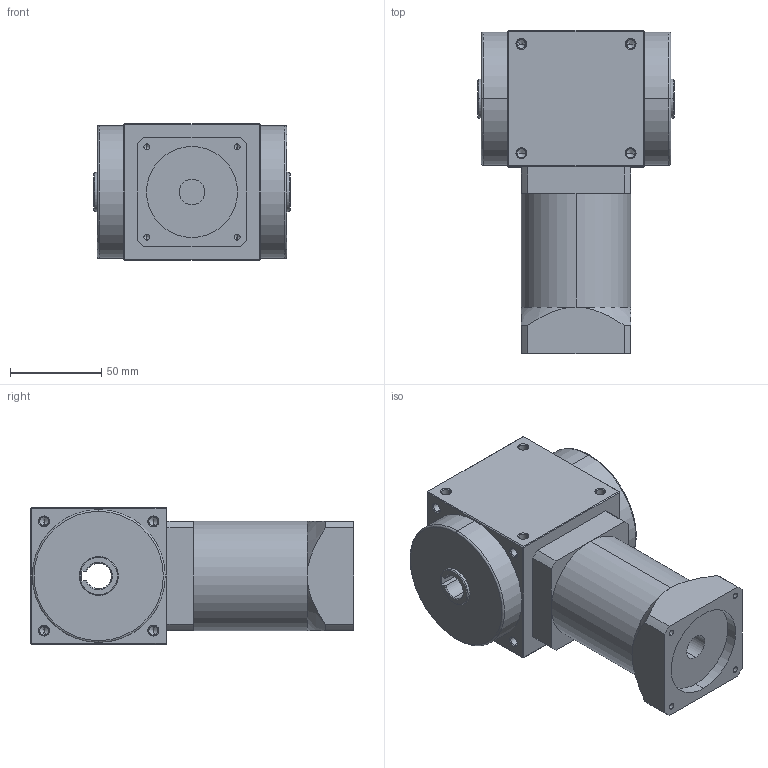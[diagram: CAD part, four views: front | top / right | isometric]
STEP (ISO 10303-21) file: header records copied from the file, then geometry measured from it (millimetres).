
FILE_DESCRIPTION (( 'STEP AP214' ), '1' );
FILE_NAME ('AT075-FH-L2--14-50-70-m4.STEP', '2020-06-19T02:41:01', ( 'User' ), ( 'Far123' ), 'SwSTEP 2.0', 'SolidWorks 2015', '' );
FILE_SCHEMA (( 'AUTOMOTIVE_DESIGN' ));
Length unit declared in the file: millimetre
Products named in the file (1): AT075-FH-L2--14-50-70-m4
Bounding box: 108 x 177.5 x 75 mm (x, y, z)
Volume: 822363.6 mm3; surface area: 73013 mm2
Topology: 1 solids, 1 shells, 267 faces, 670 edges, 364 vertices
Faces by surface type: cylinder 113, cone 102, plane 48, torus 4
Entity records: 8610 total; most frequent: CARTESIAN_POINT 1722, ORIENTED_EDGE 1244, DIRECTION 1242, EDGE_CURVE 622, AXIS2_PLACEMENT_3D 476, VERTEX_POINT 364, EDGE_LOOP 300, VECTOR 290
